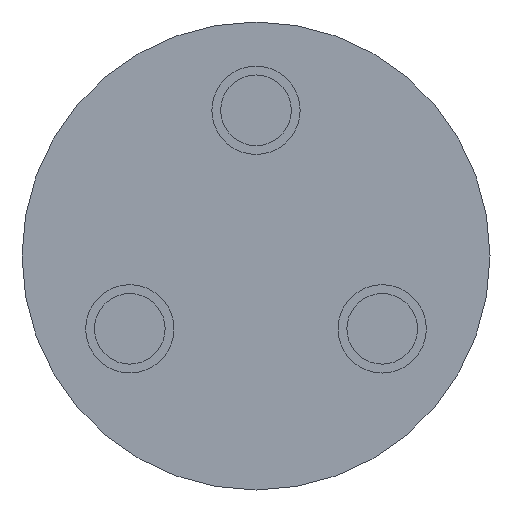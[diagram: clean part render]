
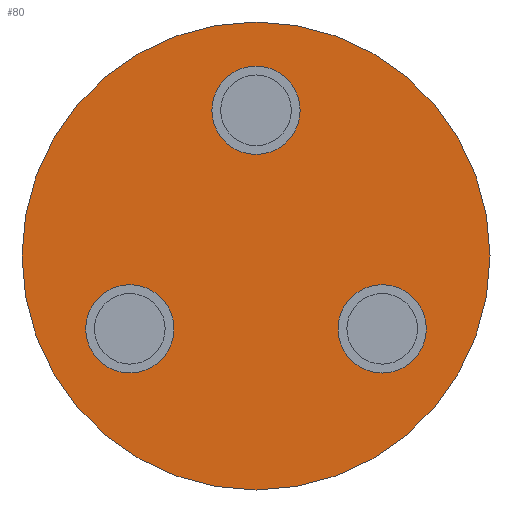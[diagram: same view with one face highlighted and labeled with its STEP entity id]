
A CAD part, front view. The second image highlights one B-rep face of the part: STEP entity #80.
In plain terms, the highlighted planar face has unit normal (0, -1, 0).
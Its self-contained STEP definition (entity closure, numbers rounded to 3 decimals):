
#80=ADVANCED_FACE('',(#272,#274,#276,#278),#280,.T.);
#272=FACE_BOUND('',#273,.T.);
#273=EDGE_LOOP('',(#448));
#274=FACE_BOUND('',#275,.T.);
#275=EDGE_LOOP('',(#449));
#276=FACE_BOUND('',#277,.T.);
#277=EDGE_LOOP('',(#450));
#278=FACE_BOUND('',#279,.T.);
#279=EDGE_LOOP('',(#451));
#280=PLANE('',#281);
#281=AXIS2_PLACEMENT_3D('',#282,#283,#284);
#282=CARTESIAN_POINT('',(0.,0.,0.));
#283=DIRECTION('',(0.,-1.,-0.));
#284=DIRECTION('',(-1.,0.,0.));
#448=ORIENTED_EDGE('',*,*,#490,.F.);
#449=ORIENTED_EDGE('',*,*,#491,.T.);
#450=ORIENTED_EDGE('',*,*,#492,.T.);
#451=ORIENTED_EDGE('',*,*,#493,.T.);
#490=EDGE_CURVE('',#514,#514,#515,.T.);
#491=EDGE_CURVE('',#516,#516,#517,.F.);
#492=EDGE_CURVE('',#518,#518,#519,.F.);
#493=EDGE_CURVE('',#520,#520,#521,.F.);
#514=VERTEX_POINT('',#565);
#515=CIRCLE('',#566,26.5);
#516=VERTEX_POINT('',#570);
#517=CIRCLE('',#571,5.);
#518=VERTEX_POINT('',#575);
#519=CIRCLE('',#576,5.);
#520=VERTEX_POINT('',#580);
#521=CIRCLE('',#581,5.);
#565=CARTESIAN_POINT('',(-26.5,0.,0.));
#566=AXIS2_PLACEMENT_3D('',#567,#568,#569);
#567=CARTESIAN_POINT('',(0.,0.,0.));
#568=DIRECTION('',(0.,1.,0.));
#569=DIRECTION('',(-1.,0.,0.));
#570=CARTESIAN_POINT('',(5.,0.,16.5));
#571=AXIS2_PLACEMENT_3D('',#572,#573,#574);
#572=CARTESIAN_POINT('',(0.,0.,16.5));
#573=DIRECTION('',(0.,-1.,-0.));
#574=DIRECTION('',(1.,0.,-0.));
#575=CARTESIAN_POINT('',(-9.289,0.,-8.25));
#576=AXIS2_PLACEMENT_3D('',#577,#578,#579);
#577=CARTESIAN_POINT('',(-14.289,0.,-8.25));
#578=DIRECTION('',(0.,-1.,-0.));
#579=DIRECTION('',(1.,0.,-0.));
#580=CARTESIAN_POINT('',(19.289,0.,-8.25));
#581=AXIS2_PLACEMENT_3D('',#582,#583,#584);
#582=CARTESIAN_POINT('',(14.289,0.,-8.25));
#583=DIRECTION('',(0.,-1.,-0.));
#584=DIRECTION('',(1.,0.,-0.));
